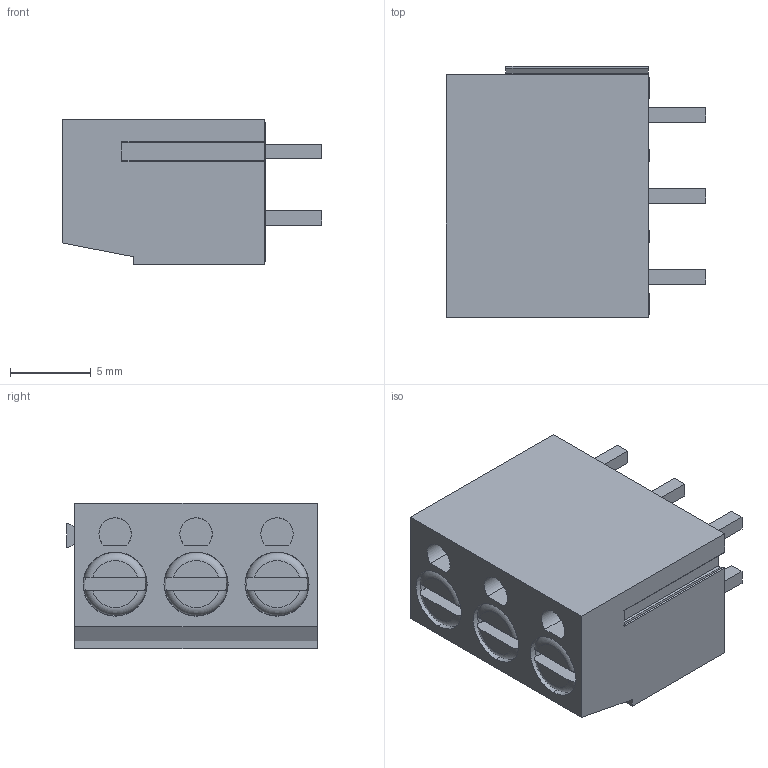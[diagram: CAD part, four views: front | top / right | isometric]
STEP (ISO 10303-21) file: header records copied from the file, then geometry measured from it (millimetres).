
FILE_DESCRIPTION((''),'2;1');
FILE_NAME('3PIN_SW0001','2019-05-13T',('zhenbing.lai'),(''),'CREO PARAMETRIC BY PTC INC, 2016260','CREO PARAMETRIC BY PTC INC, 2016260','');
FILE_SCHEMA(('CONFIG_CONTROL_DESIGN'));
Length unit declared in the file: millimetre
Products named in the file (1): 3PIN_SW0001
Bounding box: 16.05 x 15.5 x 9 mm (x, y, z)
Volume: 1450 mm3; surface area: 1328.7 mm2
Topology: 1 solids, 4 shells, 262 faces, 705 edges, 464 vertices
Faces by surface type: plane 179, cylinder 50, torus 24, bspline 9
Entity records: 8686 total; most frequent: CARTESIAN_POINT 2046, ORIENTED_EDGE 1410, DIRECTION 1311, EDGE_CURVE 705, VECTOR 479, LINE 479, VERTEX_POINT 464, AXIS2_PLACEMENT_3D 416
